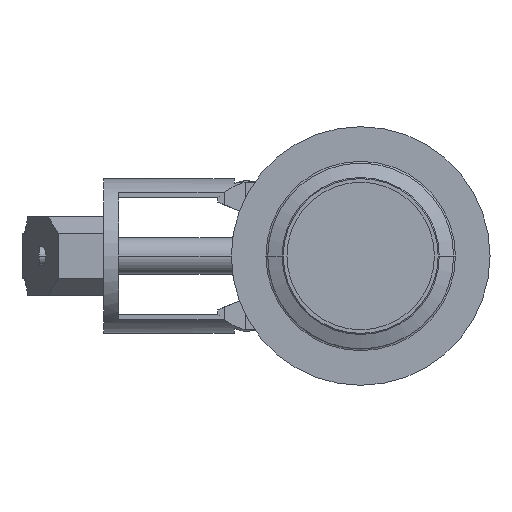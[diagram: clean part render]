
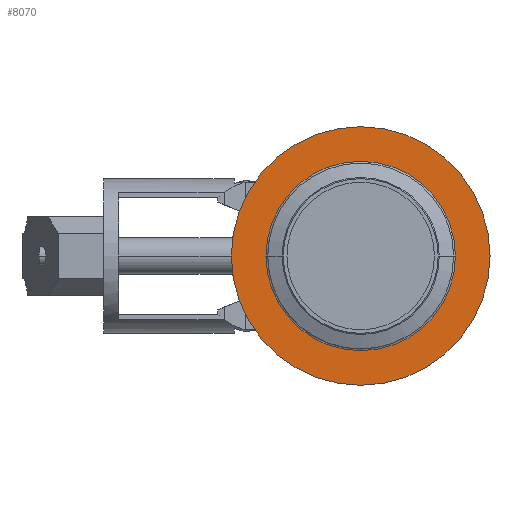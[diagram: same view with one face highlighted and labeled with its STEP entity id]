
A CAD part, left-side view. The second image highlights one B-rep face of the part: STEP entity #8070.
In plain terms, the highlighted planar face has unit normal (-1, 0, 0).
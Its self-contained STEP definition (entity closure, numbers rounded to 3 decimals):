
#7590=CARTESIAN_POINT('',(-290.595,108.875,0.));
#7600=VERTEX_POINT('',#7590);
#7630=CARTESIAN_POINT('',(-290.595,37.875,0.));
#7640=DIRECTION('',(-1.,0.,0.));
#7650=DIRECTION('',(0.,1.,0.));
#7660=AXIS2_PLACEMENT_3D('',#7630,#7640,#7650);
#7670=CIRCLE('',#7660,71.);
#7680=CARTESIAN_POINT('',(-290.595,-33.125,
0.));
#7690=VERTEX_POINT('',#7680);
#7700=EDGE_CURVE('',#7600,#7690,#7670,.T.);
#7820=CARTESIAN_POINT('',(-290.595,99.875,0.));
#7830=DIRECTION('',(1.,0.,0.));
#7840=DIRECTION('',(0.,-1.,0.));
#7850=AXIS2_PLACEMENT_3D('',#7820,#7830,#7840);
#7860=PLANE('',#7850);
#7870=ORIENTED_EDGE('',*,*,#7700,.T.);
#7880=EDGE_CURVE('',#7690,#7600,#7670,.T.);
#7890=ORIENTED_EDGE('',*,*,#7880,.T.);
#7900=EDGE_LOOP('',(#7890,#7870));
#7910=FACE_OUTER_BOUND('',#7900,.T.);
#7920=CARTESIAN_POINT('',(-290.595,37.875,0.));
#7930=DIRECTION('',(-1.,0.,0.));
#7940=DIRECTION('',(0.,1.,0.));
#7950=AXIS2_PLACEMENT_3D('',#7920,#7930,#7940);
#7960=CIRCLE('',#7950,52.);
#7970=CARTESIAN_POINT('',(-290.595,-14.125,0.));
#7980=VERTEX_POINT('',#7970);
#7990=CARTESIAN_POINT('',(-290.595,89.875,0.));
#8000=VERTEX_POINT('',#7990);
#8010=EDGE_CURVE('',#7980,#8000,#7960,.T.);
#8020=ORIENTED_EDGE('',*,*,#8010,.F.);
#8030=EDGE_CURVE('',#8000,#7980,#7960,.T.);
#8040=ORIENTED_EDGE('',*,*,#8030,.F.);
#8050=EDGE_LOOP('',(#8040,#8020));
#8060=FACE_BOUND('',#8050,.T.);
#8070=ADVANCED_FACE('',(#7910,#8060),#7860,.F.);
